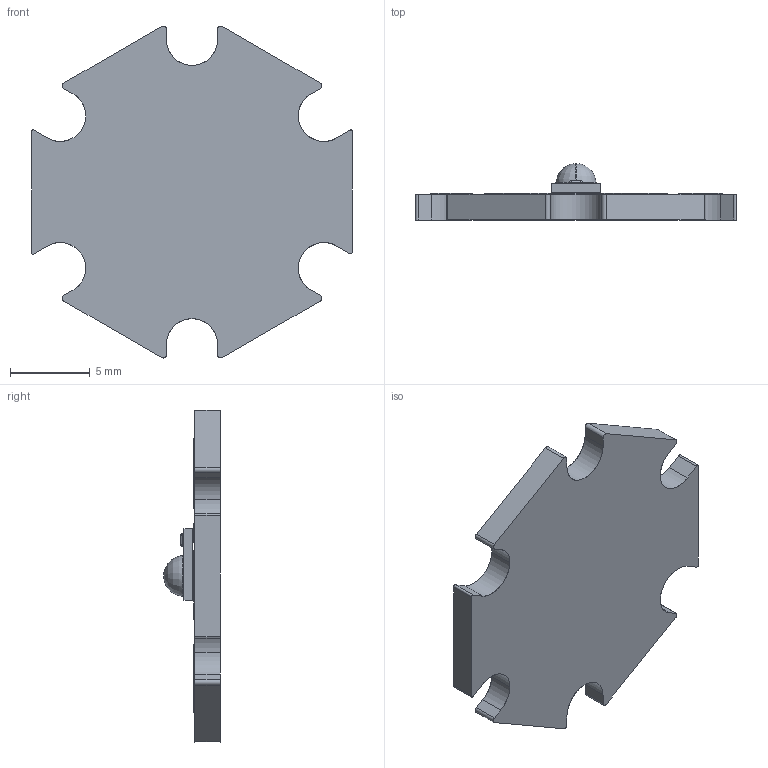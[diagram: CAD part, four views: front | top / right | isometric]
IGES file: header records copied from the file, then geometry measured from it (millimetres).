
Start section: SolidWorks IGES file using analytic representation for surfaces
Global section: file name: E:\Fast Tracks\Non-Production\Quadica\SP Assemblies\SP-01\SP-01.IGS; native system: SolidWorks 2014; preprocessor: SolidWorks 2014; author: MainServer; date: 140726.160016; units: inch
Bounding box: 20.12 x 3.55 x 20.83 mm (x, y, z)
Surface area: 773.4 mm2 (no closed solid volume)
Topology: 0 solids, 0 shells, 448 faces, 3721 edges, 3717 vertices
Faces by surface type: bspline 372, revolution 76
